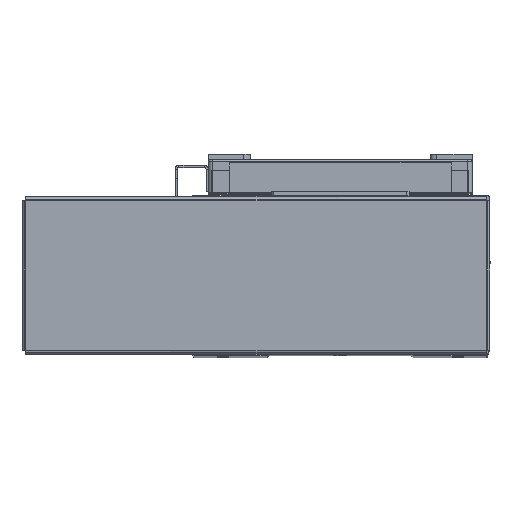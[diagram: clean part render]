
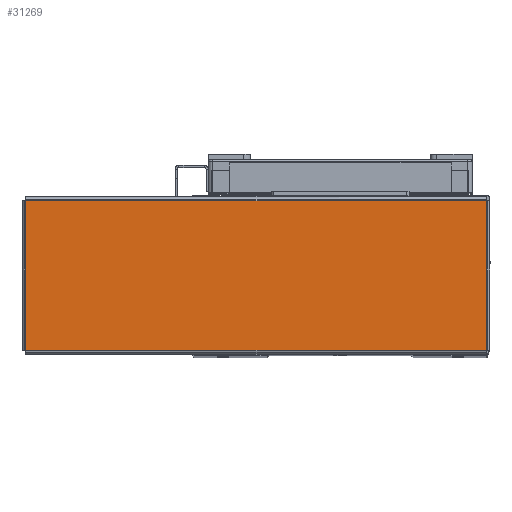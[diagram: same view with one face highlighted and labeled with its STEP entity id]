
A CAD part, top view. The second image highlights one B-rep face of the part: STEP entity #31269.
In plain terms, the highlighted planar face has unit normal (0, 0, 1) as drawn and (0, -1, 0) by its records, which use the part's own axes.
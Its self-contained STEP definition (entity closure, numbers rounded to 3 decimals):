
#895 = FACE_OUTER_BOUND ( 'NONE', #37820, .T. ) ;
#1890 = DIRECTION ( 'NONE',  ( 0., 1., 0. ) ) ;
#1915 = DIRECTION ( 'NONE',  ( 0., 0., 1. ) ) ;
#1922 = PLANE ( 'NONE',  #20103 ) ;
#1940 = CARTESIAN_POINT ( 'NONE',  ( 0., -1., 0. ) ) ;
#14448 = VERTEX_POINT ( 'NONE', #34384 ) ;
#14465 = VERTEX_POINT ( 'NONE', #34436 ) ;
#14466 = VERTEX_POINT ( 'NONE', #34491 ) ;
#14487 = VERTEX_POINT ( 'NONE', #34481 ) ;
#20103 = AXIS2_PLACEMENT_3D ( 'NONE', #1940, #1890, #1915 ) ;
#29395 = ORIENTED_EDGE ( 'NONE', *, *, #38631, .T. ) ;
#29405 = ORIENTED_EDGE ( 'NONE', *, *, #38628, .T. ) ;
#29424 = ORIENTED_EDGE ( 'NONE', *, *, #37838, .T. ) ;
#29453 = ORIENTED_EDGE ( 'NONE', *, *, #38686, .T. ) ;
#31269 = ADVANCED_FACE ( 'NONE', ( #895 ), #1922, .F. ) ;
#34384 = CARTESIAN_POINT ( 'NONE',  ( -103.763, -1., -33.763 ) ) ;
#34436 = CARTESIAN_POINT ( 'NONE',  ( 103.763, -1., 33.763 ) ) ;
#34481 = CARTESIAN_POINT ( 'NONE',  ( 103.763, -1., -33.763 ) ) ;
#34491 = CARTESIAN_POINT ( 'NONE',  ( -103.763, -1., 33.763 ) ) ;
#37820 = EDGE_LOOP ( 'NONE', ( #29405, #29395, #29453, #29424 ) ) ;
#37838 = EDGE_CURVE ( 'NONE', #14487, #14465, #38633, .T. ) ;
#38595 = VECTOR ( 'NONE', #41660, 1000. ) ;
#38599 = VECTOR ( 'NONE', #41665, 1000. ) ;
#38628 = EDGE_CURVE ( 'NONE', #14465, #14466, #38660, .T. ) ;
#38631 = EDGE_CURVE ( 'NONE', #14466, #14448, #38691, .T. ) ;
#38633 = LINE ( 'NONE', #41520, #38674 ) ;
#38648 = VECTOR ( 'NONE', #41672, 1000. ) ;
#38660 = LINE ( 'NONE', #41719, #38595 ) ;
#38666 = LINE ( 'NONE', #41722, #38599 ) ;
#38674 = VECTOR ( 'NONE', #41495, 1000. ) ;
#38686 = EDGE_CURVE ( 'NONE', #14448, #14487, #38666, .T. ) ;
#38691 = LINE ( 'NONE', #41645, #38648 ) ;
#41495 = DIRECTION ( 'NONE',  ( 0., 0., 1. ) ) ;
#41520 = CARTESIAN_POINT ( 'NONE',  ( 103.763, -1., -33.793 ) ) ;
#41645 = CARTESIAN_POINT ( 'NONE',  ( -103.763, -1., 33.793 ) ) ;
#41660 = DIRECTION ( 'NONE',  ( -1., 0., 0. ) ) ;
#41665 = DIRECTION ( 'NONE',  ( 1., 0., 0. ) ) ;
#41672 = DIRECTION ( 'NONE',  ( 0., 0., -1. ) ) ;
#41719 = CARTESIAN_POINT ( 'NONE',  ( 103.793, -1., 33.763 ) ) ;
#41722 = CARTESIAN_POINT ( 'NONE',  ( -103.793, -1., -33.763 ) ) ;
